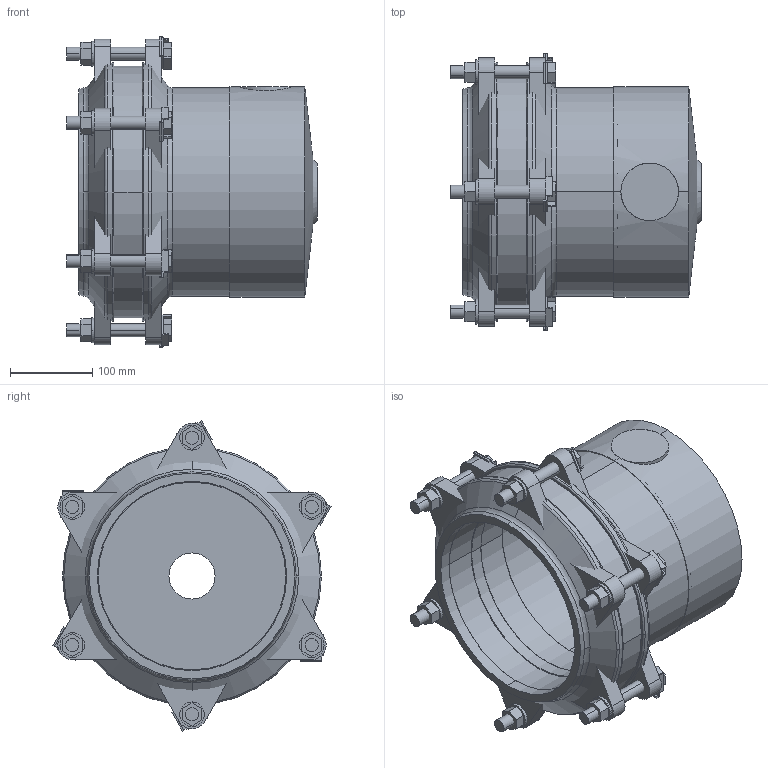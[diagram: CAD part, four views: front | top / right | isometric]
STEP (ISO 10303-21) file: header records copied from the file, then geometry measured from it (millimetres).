
FILE_DESCRIPTION(('STEP AP214'),'1');
FILE_NAME('HDA1005630 DN 200 axial.STP','2015-02-06T10:05:04',(' '),(' '),'Spatial InterOp 3D',' ',' ');
FILE_SCHEMA(('automotive_design'));
Length unit declared in the file: millimetre
Products named in the file (54): 3D-Objekt
Bounding box: 304 x 337.88 x 376.92 mm (x, y, z)
Volume: 4742285.4 mm3; surface area: 1090351.2 mm2
Topology: 54 solids, 54 shells, 401 faces, 865 edges, 572 vertices
Faces by surface type: plane 289, cylinder 84, cone 16, torus 12
Entity records: 15454 total; most frequent: CARTESIAN_POINT 2023, DIRECTION 1997, ORIENTED_EDGE 1730, EDGE_CURVE 865, AXIS2_PLACEMENT_3D 679, LINE 639, VECTOR 639, VERTEX_POINT 572
